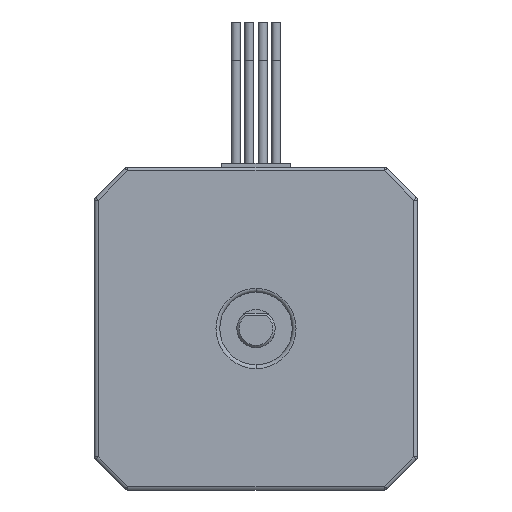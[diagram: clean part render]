
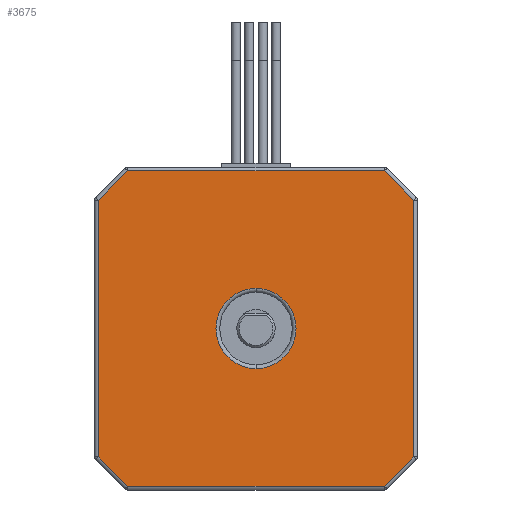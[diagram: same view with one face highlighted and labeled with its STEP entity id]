
A CAD part, front view. The second image highlights one B-rep face of the part: STEP entity #3675.
In plain terms, the highlighted planar face has unit normal (0, -1, 0).
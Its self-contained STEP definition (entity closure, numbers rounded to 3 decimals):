
#28 = CARTESIAN_POINT ( 'NONE',  ( 0., 0., 0. ) ) ;
#54 = CARTESIAN_POINT ( 'NONE',  ( -16.827, 0., -20.65 ) ) ;
#282 = DIRECTION ( 'NONE',  ( 1., 0., 0. ) ) ;
#463 = ORIENTED_EDGE ( 'NONE', *, *, #593, .T. ) ;
#590 = CARTESIAN_POINT ( 'NONE',  ( 16.68, 0., 20.796 ) ) ;
#593 = EDGE_CURVE ( 'NONE', #17317, #8604, #3515, .T. ) ;
#736 = LINE ( 'NONE', #14089, #22776 ) ;
#1122 = AXIS2_PLACEMENT_3D ( 'NONE', #28, #13732, #21150 ) ;
#1437 = CARTESIAN_POINT ( 'NONE',  ( 16.827, 0., 20.65 ) ) ;
#1710 = VECTOR ( 'NONE', #1862, 1000. ) ;
#1726 = VERTEX_POINT ( 'NONE', #23836 ) ;
#1862 = DIRECTION ( 'NONE',  ( -1., 0., 0. ) ) ;
#1993 = LINE ( 'NONE', #7647, #1710 ) ;
#2087 = LINE ( 'NONE', #5903, #20427 ) ;
#2125 = CARTESIAN_POINT ( 'NONE',  ( 17.034, 0., -20.65 ) ) ;
#2312 = VERTEX_POINT ( 'NONE', #54 ) ;
#2387 = VERTEX_POINT ( 'NONE', #13637 ) ;
#2785 = EDGE_CURVE ( 'NONE', #8604, #17317, #8203, .T. ) ;
#2826 = ORIENTED_EDGE ( 'NONE', *, *, #3546, .T. ) ;
#3515 = CIRCLE ( 'NONE', #4722, 5.25 ) ;
#3546 = EDGE_CURVE ( 'NONE', #2387, #18169, #2087, .T. ) ;
#3583 = ORIENTED_EDGE ( 'NONE', *, *, #11232, .T. ) ;
#3675 = ADVANCED_FACE ( 'NONE', ( #18691, #16724 ), #20512, .F. ) ;
#4076 = VERTEX_POINT ( 'NONE', #13420 ) ;
#4158 = DIRECTION ( 'NONE',  ( -0.707, 0., -0.707 ) ) ;
#4228 = CARTESIAN_POINT ( 'NONE',  ( 0., 0., 0. ) ) ;
#4722 = AXIS2_PLACEMENT_3D ( 'NONE', #4228, #22654, #7934 ) ;
#4832 = EDGE_CURVE ( 'NONE', #4076, #23160, #18794, .T. ) ;
#4892 = CARTESIAN_POINT ( 'NONE',  ( 0., 0., 5.25 ) ) ;
#5137 = CARTESIAN_POINT ( 'NONE',  ( 20.65, 0., 17.034 ) ) ;
#5166 = CARTESIAN_POINT ( 'NONE',  ( 20.796, 0., -16.68 ) ) ;
#5272 = LINE ( 'NONE', #5166, #21872 ) ;
#5380 = VECTOR ( 'NONE', #16589, 1000. ) ;
#5903 = CARTESIAN_POINT ( 'NONE',  ( -20.796, 0., 16.68 ) ) ;
#7589 = ORIENTED_EDGE ( 'NONE', *, *, #4832, .T. ) ;
#7647 = CARTESIAN_POINT ( 'NONE',  ( 0., 0., 20.65 ) ) ;
#7791 = ORIENTED_EDGE ( 'NONE', *, *, #23678, .T. ) ;
#7934 = DIRECTION ( 'NONE',  ( 0., 0., 1. ) ) ;
#8033 = ORIENTED_EDGE ( 'NONE', *, *, #11854, .T. ) ;
#8203 = CIRCLE ( 'NONE', #1122, 5.25 ) ;
#8604 = VERTEX_POINT ( 'NONE', #10364 ) ;
#8830 = CARTESIAN_POINT ( 'NONE',  ( 20.65, 0., 16.827 ) ) ;
#9284 = LINE ( 'NONE', #2125, #21532 ) ;
#9803 = CARTESIAN_POINT ( 'NONE',  ( -16.68, 0., -20.796 ) ) ;
#10364 = CARTESIAN_POINT ( 'NONE',  ( 0., 0., -5.25 ) ) ;
#10481 = VERTEX_POINT ( 'NONE', #1437 ) ;
#11094 = DIRECTION ( 'NONE',  ( 0., 0., 1. ) ) ;
#11232 = EDGE_CURVE ( 'NONE', #18169, #1726, #736, .T. ) ;
#11854 = EDGE_CURVE ( 'NONE', #1726, #2312, #12177, .T. ) ;
#11990 = DIRECTION ( 'NONE',  ( 0., 0., -1. ) ) ;
#12177 = LINE ( 'NONE', #9803, #24062 ) ;
#12565 = EDGE_LOOP ( 'NONE', ( #463, #20394 ) ) ;
#12601 = AXIS2_PLACEMENT_3D ( 'NONE', #12825, #22322, #11094 ) ;
#12825 = CARTESIAN_POINT ( 'NONE',  ( 0., 0., 0. ) ) ;
#13247 = EDGE_CURVE ( 'NONE', #10481, #2387, #1993, .T. ) ;
#13374 = CARTESIAN_POINT ( 'NONE',  ( 16.827, 0., -20.65 ) ) ;
#13420 = CARTESIAN_POINT ( 'NONE',  ( 20.65, 0., -16.827 ) ) ;
#13637 = CARTESIAN_POINT ( 'NONE',  ( -16.827, 0., 20.65 ) ) ;
#13732 = DIRECTION ( 'NONE',  ( 0., 1., 0. ) ) ;
#14089 = CARTESIAN_POINT ( 'NONE',  ( -20.65, 0., 0. ) ) ;
#14110 = ORIENTED_EDGE ( 'NONE', *, *, #13247, .T. ) ;
#14562 = DIRECTION ( 'NONE',  ( 0.707, 0., 0.707 ) ) ;
#15010 = VECTOR ( 'NONE', #15763, 1000. ) ;
#15472 = DIRECTION ( 'NONE',  ( 0.707, 0., -0.707 ) ) ;
#15763 = DIRECTION ( 'NONE',  ( -0.707, 0., 0.707 ) ) ;
#15851 = ORIENTED_EDGE ( 'NONE', *, *, #16054, .T. ) ;
#16054 = EDGE_CURVE ( 'NONE', #23160, #10481, #21009, .T. ) ;
#16589 = DIRECTION ( 'NONE',  ( 0., 0., 1. ) ) ;
#16724 = FACE_BOUND ( 'NONE', #12565, .T. ) ;
#17317 = VERTEX_POINT ( 'NONE', #4892 ) ;
#18169 = VERTEX_POINT ( 'NONE', #22816 ) ;
#18691 = FACE_OUTER_BOUND ( 'NONE', #20920, .T. ) ;
#18794 = LINE ( 'NONE', #5137, #5380 ) ;
#19396 = VERTEX_POINT ( 'NONE', #13374 ) ;
#20394 = ORIENTED_EDGE ( 'NONE', *, *, #2785, .T. ) ;
#20427 = VECTOR ( 'NONE', #4158, 1000. ) ;
#20512 = PLANE ( 'NONE',  #12601 ) ;
#20920 = EDGE_LOOP ( 'NONE', ( #15851, #14110, #2826, #3583, #8033, #7791, #21938, #7589 ) ) ;
#21009 = LINE ( 'NONE', #590, #15010 ) ;
#21150 = DIRECTION ( 'NONE',  ( 0., 0., 1. ) ) ;
#21532 = VECTOR ( 'NONE', #282, 1000. ) ;
#21872 = VECTOR ( 'NONE', #14562, 1000. ) ;
#21938 = ORIENTED_EDGE ( 'NONE', *, *, #22854, .T. ) ;
#22322 = DIRECTION ( 'NONE',  ( 0., 1., 0. ) ) ;
#22654 = DIRECTION ( 'NONE',  ( 0., 1., 0. ) ) ;
#22776 = VECTOR ( 'NONE', #11990, 1000. ) ;
#22816 = CARTESIAN_POINT ( 'NONE',  ( -20.65, 0., 16.827 ) ) ;
#22854 = EDGE_CURVE ( 'NONE', #19396, #4076, #5272, .T. ) ;
#23160 = VERTEX_POINT ( 'NONE', #8830 ) ;
#23678 = EDGE_CURVE ( 'NONE', #2312, #19396, #9284, .T. ) ;
#23836 = CARTESIAN_POINT ( 'NONE',  ( -20.65, 0., -16.827 ) ) ;
#24062 = VECTOR ( 'NONE', #15472, 1000. ) ;
